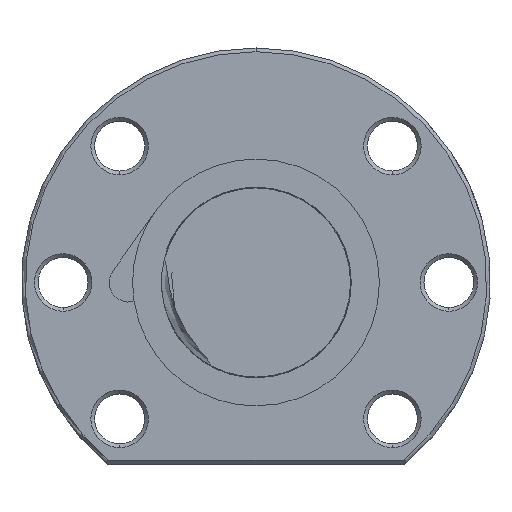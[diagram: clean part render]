
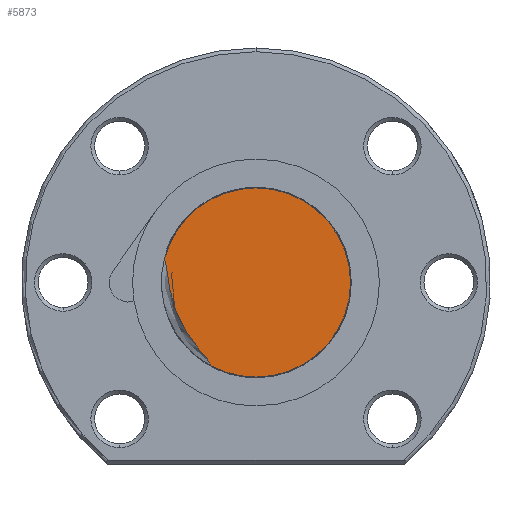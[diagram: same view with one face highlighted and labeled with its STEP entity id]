
A CAD part, left-side view. The second image highlights one B-rep face of the part: STEP entity #5873.
In plain terms, the highlighted planar face has unit normal (-1, 0, 0).
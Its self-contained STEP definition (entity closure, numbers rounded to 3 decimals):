
#5343 = EDGE_CURVE ( 'NONE', #5344, #5345, #7479, .T. ) ;
#5344 = VERTEX_POINT ( 'NONE', #7470 ) ;
#5345 = VERTEX_POINT ( 'NONE', #7469 ) ;
#5359 = VERTEX_POINT ( 'NONE', #7728 ) ;
#5368 = VERTEX_POINT ( 'NONE', #7880 ) ;
#5370 = EDGE_CURVE ( 'NONE', #5368, #5359, #7879, .T. ) ;
#5747 = EDGE_CURVE ( 'NONE', #5345, #5368, #25695, .T. ) ;
#5873 = ADVANCED_FACE ( 'NONE', ( #26568 ), #26797, .F. ) ;
#5874 = EDGE_LOOP ( 'NONE', ( #5875, #5876, #5878, #5879 ) ) ;
#5875 = ORIENTED_EDGE ( 'NONE', *, *, #5343, .F. ) ;
#5876 = ORIENTED_EDGE ( 'NONE', *, *, #5877, .T. ) ;
#5877 = EDGE_CURVE ( 'NONE', #5344, #5359, #26791, .T. ) ;
#5878 = ORIENTED_EDGE ( 'NONE', *, *, #5370, .F. ) ;
#5879 = ORIENTED_EDGE ( 'NONE', *, *, #5747, .F. ) ;
#7469 = CARTESIAN_POINT ( 'NONE',  ( -241., 0., 12.5 ) ) ;
#7470 = CARTESIAN_POINT ( 'NONE',  ( -241., 12.125, 3.04 ) ) ;
#7471 = DIRECTION ( 'NONE',  ( 0., 1., 0. ) ) ;
#7472 = DIRECTION ( 'NONE',  ( 1., 0., 0. ) ) ;
#7473 = CARTESIAN_POINT ( 'NONE',  ( -241., 0., 0. ) ) ;
#7474 = AXIS2_PLACEMENT_3D ( 'NONE', #7473, #7472, #7471 ) ;
#7479 = CIRCLE ( 'NONE', #7474, 12.5 ) ;
#7728 = CARTESIAN_POINT ( 'NONE',  ( -241., 5.854, -11.044 ) ) ;
#7875 = DIRECTION ( 'NONE',  ( 0., 1., 0. ) ) ;
#7876 = DIRECTION ( 'NONE',  ( 1., 0., 0. ) ) ;
#7877 = CARTESIAN_POINT ( 'NONE',  ( -241., 0., 0. ) ) ;
#7878 = AXIS2_PLACEMENT_3D ( 'NONE', #7877, #7876, #7875 ) ;
#7879 = CIRCLE ( 'NONE', #7878, 12.5 ) ;
#7880 = CARTESIAN_POINT ( 'NONE',  ( -241., 0., -12.5 ) ) ;
#25691 = DIRECTION ( 'NONE',  ( 0., 1., 0. ) ) ;
#25692 = DIRECTION ( 'NONE',  ( 1., 0., 0. ) ) ;
#25693 = CARTESIAN_POINT ( 'NONE',  ( -241., 0., 0. ) ) ;
#25694 = AXIS2_PLACEMENT_3D ( 'NONE', #25693, #25692, #25691 ) ;
#25695 = CIRCLE ( 'NONE', #25694, 12.5 ) ;
#26568 = FACE_OUTER_BOUND ( 'NONE', #5874, .T. ) ;
#26573 = CARTESIAN_POINT ( 'NONE',  ( -241., 5.854, -11.044 ) ) ;
#26574 = CARTESIAN_POINT ( 'NONE',  ( -241., 5.903, -10.888 ) ) ;
#26575 = CARTESIAN_POINT ( 'NONE',  ( -241., 5.989, -10.747 ) ) ;
#26576 = CARTESIAN_POINT ( 'NONE',  ( -241., 6.17, -10.474 ) ) ;
#26577 = CARTESIAN_POINT ( 'NONE',  ( -241., 6.269, -10.344 ) ) ;
#26578 = CARTESIAN_POINT ( 'NONE',  ( -241., 6.573, -9.958 ) ) ;
#26579 = CARTESIAN_POINT ( 'NONE',  ( -241., 6.786, -9.709 ) ) ;
#26580 = CARTESIAN_POINT ( 'NONE',  ( -241., 7.422, -8.959 ) ) ;
#26581 = CARTESIAN_POINT ( 'NONE',  ( -241., 7.841, -8.455 ) ) ;
#26582 = CARTESIAN_POINT ( 'NONE',  ( -241., 8.628, -7.409 ) ) ;
#26583 = CARTESIAN_POINT ( 'NONE',  ( -241., 8.998, -6.868 ) ) ;
#26584 = CARTESIAN_POINT ( 'NONE',  ( -241., 9.674, -5.739 ) ) ;
#26585 = CARTESIAN_POINT ( 'NONE',  ( -241., 9.978, -5.157 ) ) ;
#26586 = CARTESIAN_POINT ( 'NONE',  ( -241., 10.507, -3.965 ) ) ;
#26587 = CARTESIAN_POINT ( 'NONE',  ( -241., 10.734, -3.355 ) ) ;
#26588 = CARTESIAN_POINT ( 'NONE',  ( -241., 11.119, -2.108 ) ) ;
#26589 = CARTESIAN_POINT ( 'NONE',  ( -241., 11.276, -1.468 ) ) ;
#26590 = CARTESIAN_POINT ( 'NONE',  ( -241., 11.531, -0.178 ) ) ;
#26775 = CARTESIAN_POINT ( 'NONE',  ( -241., 11.972, 2.659 ) ) ;
#26776 = CARTESIAN_POINT ( 'NONE',  ( -241., 11.995, 2.738 ) ) ;
#26777 = CARTESIAN_POINT ( 'NONE',  ( -241., 12.05, 2.892 ) ) ;
#26778 = CARTESIAN_POINT ( 'NONE',  ( -241., 12.082, 2.969 ) ) ;
#26779 = CARTESIAN_POINT ( 'NONE',  ( -241., 12.125, 3.04 ) ) ;
#26785 = CARTESIAN_POINT ( 'NONE',  ( -241., 11.625, 0.472 ) ) ;
#26786 = CARTESIAN_POINT ( 'NONE',  ( -241., 11.757, 1.449 ) ) ;
#26787 = CARTESIAN_POINT ( 'NONE',  ( -241., 11.799, 1.775 ) ) ;
#26788 = CARTESIAN_POINT ( 'NONE',  ( -241., 11.881, 2.26 ) ) ;
#26789 = CARTESIAN_POINT ( 'NONE',  ( -241., 11.911, 2.421 ) ) ;
#26791 = B_SPLINE_CURVE_WITH_KNOTS ( 'NONE', 3,
 ( #26779, #26778, #26777, #26776, #26775, #26789, #26788, #26787, #26786, #26785, #26590, #26589, #26588, #26587, #26586, #26585, #26584, #26583, #26582, #26581, #26580, #26579, #26578, #26577, #26576, #26575, #26574, #26573 ),
 .UNSPECIFIED., .F., .F.,
 ( 4, 2, 2, 2, 2, 2, 2, 2, 2, 2, 2, 2, 2, 4 ),
 ( 0.001, 0.001, 0.001, 0.002, 0.003, 0.005, 0.007, 0.009, 0.011, 0.013, 0.015, 0.016, 0.016, 0.017 ),
 .UNSPECIFIED. ) ;
#26793 = DIRECTION ( 'NONE',  ( 0., 0., -1. ) ) ;
#26794 = DIRECTION ( 'NONE',  ( 1., 0., 0. ) ) ;
#26795 = CARTESIAN_POINT ( 'NONE',  ( -241., 0., 0. ) ) ;
#26796 = AXIS2_PLACEMENT_3D ( 'NONE', #26795, #26794, #26793 ) ;
#26797 = PLANE ( 'NONE',  #26796 ) ;
